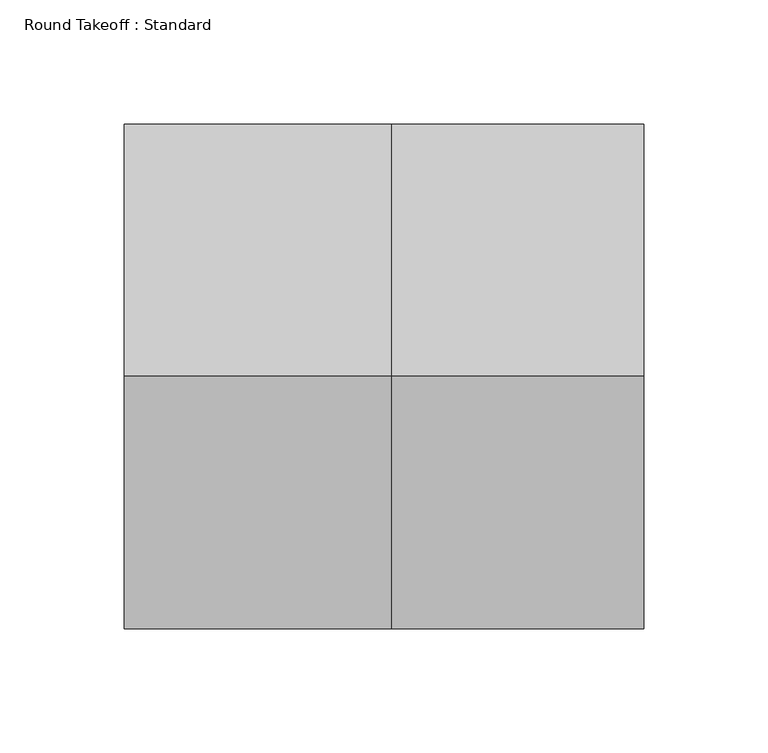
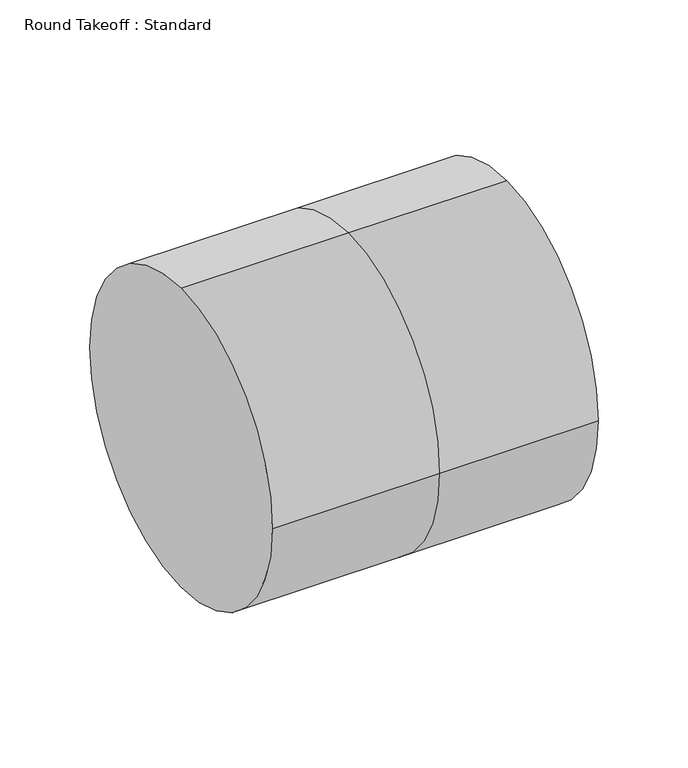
"""IFC4 building model written with IfcOpenShell, lengths in millimetres: duct fitting geometry, Round Takeoff : Standard."""

from ifc_helpers import new_model, si_unit, frame, origin, place, context, project, spatial, circle_curve, source, transform, mapped, element, save
from ifc_brep_helpers import plane_surface, cylinder_surface, advanced_brep


def round_takeoff_standard_affb11f8(model_context):
    return source(origin(), model_context, "Body", "AdvancedBrep", [
        advanced_brep(
        [(101.6, 0.0, 101.6), (101.6, -101.6, 0.0), (101.6, 0.0, -101.6), (101.6, 101.6, 0.0), (0.0, 0.0, 101.6), (0.0, -101.6, 0.0), (0.0, 0.0, -101.6), (0.0, 101.6, 0.0), (-107.696, 0.0, 101.6), (-107.696, 101.6, 0.0), (-107.696, 0.0, -101.6), (-107.696, -101.6, 0.0)],
        [
            (0, 1, circle_curve(frame((101.6, 0.0, 0.0), z_axis=(1.0, 0.0, 0.0), x_axis=(0.0, -1.0, 0.0)), 101.6)),
            (1, 2, circle_curve(frame((101.6, 0.0, 0.0), z_axis=(1.0, 0.0, 0.0), x_axis=(0.0, -1.0, 0.0)), 101.6)),
            (2, 3, circle_curve(frame((101.6, 0.0, 0.0), z_axis=(1.0, 0.0, 0.0), x_axis=(0.0, -1.0, 0.0)), 101.6)),
            (3, 0, circle_curve(frame((101.6, 0.0, 0.0), z_axis=(1.0, 0.0, 0.0), x_axis=(0.0, -1.0, 0.0)), 101.6)),
            (0, 4),
            (4, 5, circle_curve(frame((0.0, 0.0, 0.0), z_axis=(1.0, 0.0, 0.0), x_axis=(0.0, -1.0, 0.0)), 101.6)),
            (5, 1),
            (5, 6, circle_curve(frame((0.0, 0.0, 0.0), z_axis=(1.0, 0.0, 0.0), x_axis=(0.0, -1.0, 0.0)), 101.6)),
            (6, 2),
            (6, 7, circle_curve(frame((0.0, 0.0, 0.0), z_axis=(1.0, 0.0, 0.0), x_axis=(0.0, -1.0, 0.0)), 101.6)),
            (7, 3),
            (7, 4, circle_curve(frame((0.0, 0.0, 0.0), z_axis=(1.0, 0.0, 0.0), x_axis=(0.0, -1.0, 0.0)), 101.6)),
            (8, 9, circle_curve(frame((-107.696, 0.0, 0.0), z_axis=(-1.0, 0.0, 0.0), x_axis=(0.0, -1.0, 0.0)), 101.6)),
            (9, 10, circle_curve(frame((-107.696, 0.0, 0.0), z_axis=(-1.0, 0.0, 0.0), x_axis=(0.0, -1.0, 0.0)), 101.6)),
            (10, 11, circle_curve(frame((-107.696, 0.0, 0.0), z_axis=(-1.0, 0.0, 0.0), x_axis=(0.0, -1.0, 0.0)), 101.6)),
            (11, 8, circle_curve(frame((-107.696, 0.0, 0.0), z_axis=(-1.0, 0.0, 0.0), x_axis=(0.0, -1.0, 0.0)), 101.6)),
            (11, 5),
            (4, 8),
            (10, 6),
            (9, 7),
        ],
        [
            plane_surface(frame((101.6, 0.0, 0.0), z_axis=(1.0, 0.0, 0.0), x_axis=(0.0, 0.0, 1.0))),
            cylinder_surface(frame((0.0, 0.0, 0.0), z_axis=(-1.0, 0.0, 0.0), x_axis=(0.0, -1.0, 0.0)), 101.6),
            plane_surface(frame((-107.696, 0.0, 0.0), z_axis=(-1.0, 0.0, 0.0), x_axis=(0.0, 0.0, 1.0))),
            cylinder_surface(frame((-107.696, 0.0, 0.0), z_axis=(-1.0, 0.0, 0.0), x_axis=(0.0, -1.0, 0.0)), 101.6),
        ],
        [
            (0, [[1, 2, 3, 4]]),
            (1, [[5, 6, 7, -1]]),
            (1, [[-7, 8, 9, -2]]),
            (1, [[-9, 10, 11, -3]]),
            (1, [[-11, 12, -5, -4]]),
            (2, [[13, 14, 15, 16]]),
            (3, [[17, -6, 18, -16]]),
            (3, [[19, -8, -17, -15]]),
            (3, [[20, -10, -19, -14]]),
            (3, [[-18, -12, -20, -13]]),
        ],
    ),
    ])


if __name__ == "__main__":
    model = new_model("IFC4")
    model_context = context("Model", 3, world=origin())
    ifc_project = project(units=[si_unit("LENGTHUNIT", "METRE", prefix="MILLI")], contexts=[model_context])
    site = spatial("IfcSite", under=ifc_project)
    building = spatial("IfcBuilding", under=site)
    placement = place(None, origin())
    round_takeoff_standard_shape = round_takeoff_standard_affb11f8(model_context)
    element("IfcDuctFitting", 1, ObjectType="Round Takeoff : Standard", at=placement, inside=building, context=model_context, shape_type="MappedRepresentation", body=[
        mapped(round_takeoff_standard_shape, transform((0.0, 0.0, 0.0), x_axis=(1.0, 0.0, 0.0), y_axis=(0.0, 1.0, 0.0), z_axis=(0.0, 0.0, 1.0))),
    ])
    save(model, "model.ifc")
